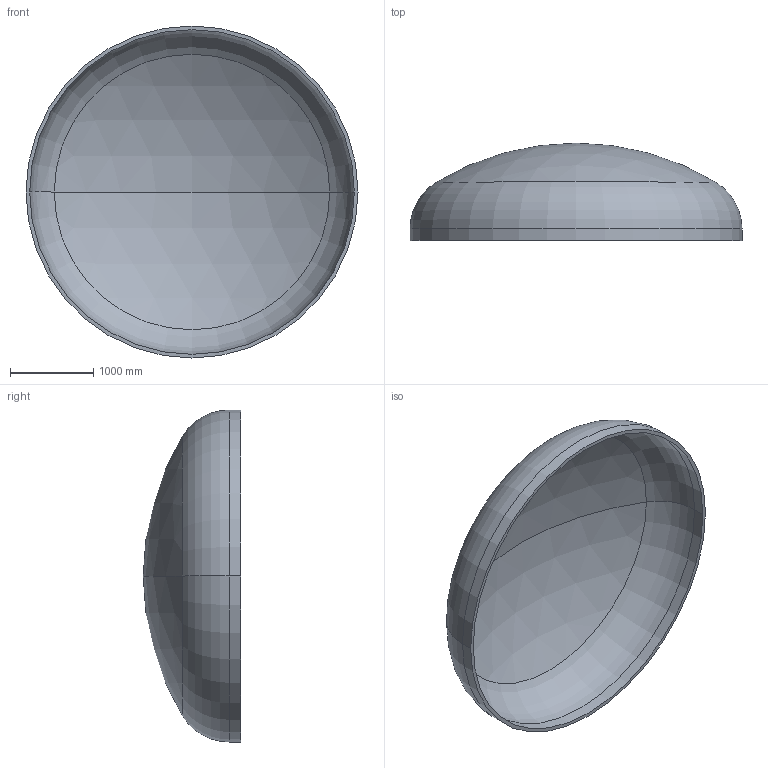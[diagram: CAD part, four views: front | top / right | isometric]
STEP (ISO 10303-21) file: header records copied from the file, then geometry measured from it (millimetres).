
FILE_DESCRIPTION (( 'STEP AP203' ), '1' );
FILE_NAME ('DIN 28013 Korbbogenform_-_Boden DIN 28013 - 4000 x 140 - I - s=44.step', '2016-07-01T22:25:27', ( '' ), ( '' ), 'SwSTEP 2.0', 'SolidWorks 2013', '' );
FILE_SCHEMA (( 'CONFIG_CONTROL_DESIGN' ));
Length unit declared in the file: millimetre
Products named in the file (1): DIN 28013 Korbbogenform_-_Boden DIN 28013 - 4000 x 140 - I - s=44
Bounding box: 4000 x 1174.04 x 4000 mm (x, y, z)
Volume: 831044500.8 mm3; surface area: 38325629.3 mm2
Topology: 1 solids, 1 shells, 13 faces, 24 edges, 14 vertices
Faces by surface type: torus 4, cylinder 4, sphere 4, plane 1
Entity records: 407 total; most frequent: DIRECTION 72, CARTESIAN_POINT 52, ORIENTED_EDGE 48, AXIS2_PLACEMENT_3D 34, EDGE_CURVE 24, CIRCLE 20, EDGE_LOOP 14, VERTEX_POINT 14
